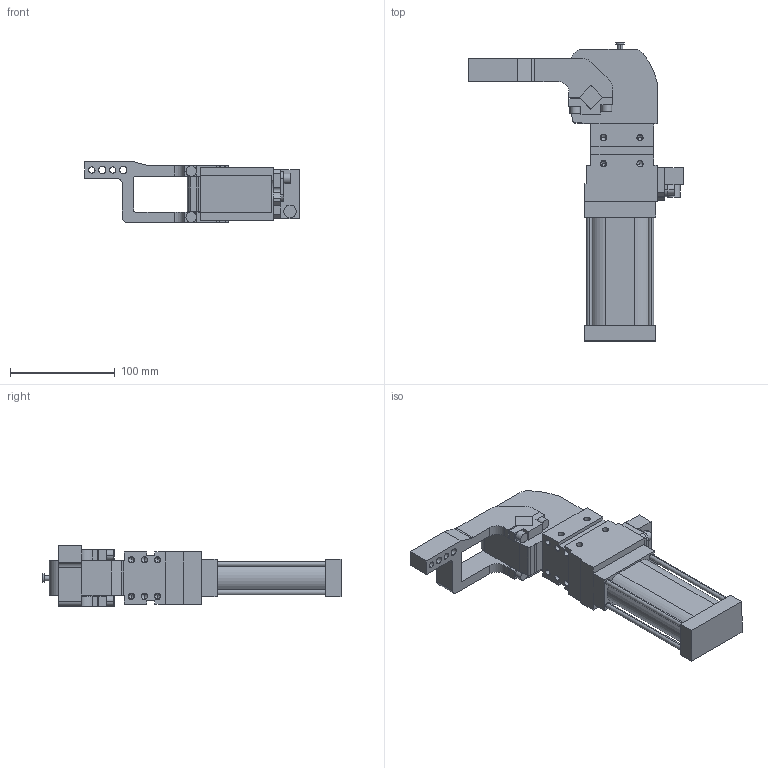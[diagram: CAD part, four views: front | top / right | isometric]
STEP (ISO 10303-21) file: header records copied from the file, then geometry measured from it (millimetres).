
FILE_DESCRIPTION (( 'STEP AP214' ), '1' );
FILE_NAME ('cpl40v1si1g_135.STEP', '2021-05-17T10:19:55', ( '' ), ( '' ), 'SwSTEP 2.0', 'SolidWorks 2021', '' );
FILE_SCHEMA (( 'AUTOMOTIVE_DESIGN' ));
Length unit declared in the file: millimetre
Products named in the file (5): leva_v1s_cpl40; piastra_blocchetto_cpl40; cpl40v1si1g_135; blocchetto_VEP_0_cpl40; meccanica_cpl40
Assembly tree (4 placements, depth 2):
  cpl40v1si1g_135
    meccanica_cpl40
    blocchetto_VEP_0_cpl40
    piastra_blocchetto_cpl40
    leva_v1s_cpl40
Bounding box: 205.5 x 285 x 58 mm (x, y, z)
Volume: 773836 mm3; surface area: 118009.1 mm2
Topology: 5 solids, 5 shells, 413 faces, 1055 edges, 659 vertices
Faces by surface type: plane 218, cylinder 147, cone 48
Entity records: 13750 total; most frequent: DIRECTION 2173, CARTESIAN_POINT 2088, ORIENTED_EDGE 2018, EDGE_CURVE 1009, AXIS2_PLACEMENT_3D 744, LINE 685, VECTOR 685, VERTEX_POINT 659
